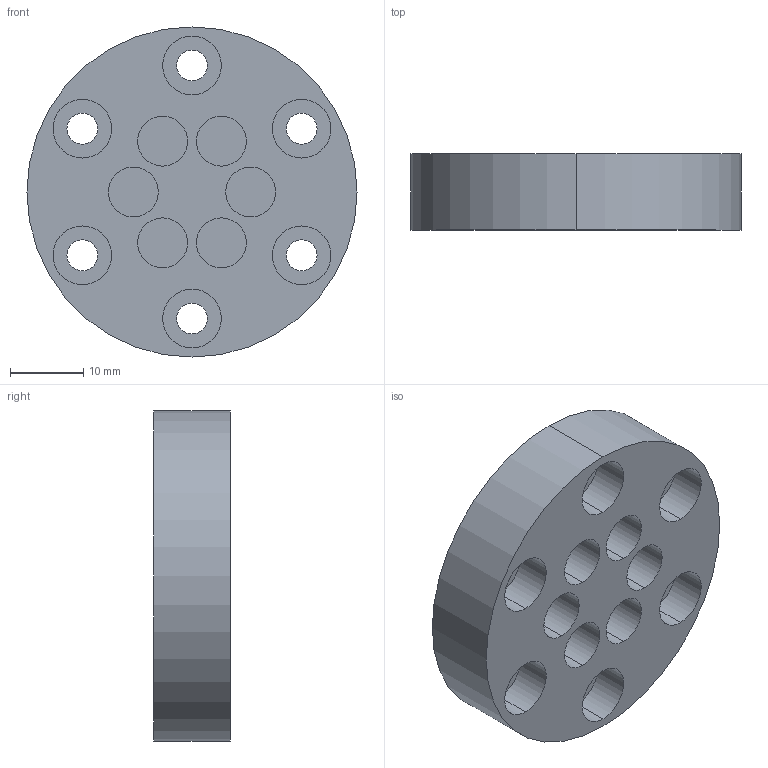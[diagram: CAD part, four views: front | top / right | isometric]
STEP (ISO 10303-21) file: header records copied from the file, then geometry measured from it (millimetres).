
FILE_DESCRIPTION (( 'STEP AP203' ), '1' );
FILE_NAME ('喘謫1.STEP', '2025-05-01T07:29:09', ( '' ), ( '' ), 'SwSTEP 2.0', 'SolidWorks 2024', '' );
FILE_SCHEMA (( 'CONFIG_CONTROL_DESIGN' ));
Length unit declared in the file: millimetre
Products named in the file (1): 齿轮1
Bounding box: 45 x 10.4 x 45 mm (x, y, z)
Volume: 12840.4 mm3; surface area: 6691.8 mm2
Topology: 1 solids, 1 shells, 52 faces, 114 edges, 76 vertices
Faces by surface type: cylinder 38, plane 14
Entity records: 1575 total; most frequent: DIRECTION 296, CARTESIAN_POINT 243, ORIENTED_EDGE 228, AXIS2_PLACEMENT_3D 129, EDGE_CURVE 114, VERTEX_POINT 76, EDGE_LOOP 76, CIRCLE 76
